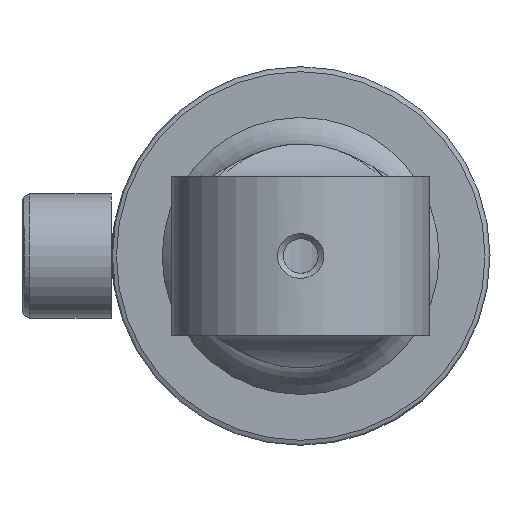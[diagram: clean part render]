
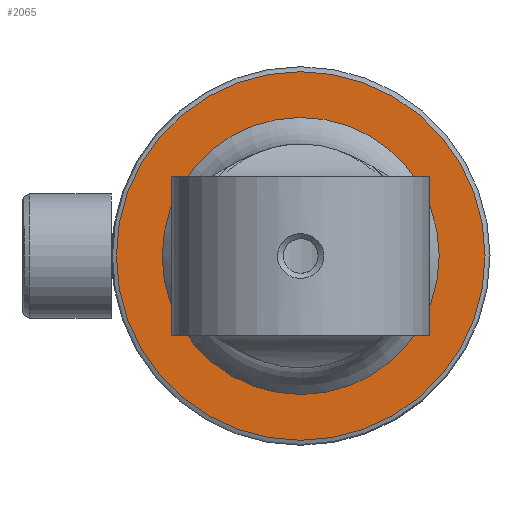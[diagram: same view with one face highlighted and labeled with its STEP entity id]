
A CAD part, left-side view. The second image highlights one B-rep face of the part: STEP entity #2065.
In plain terms, the highlighted planar face has unit normal (-1, 0, 0).
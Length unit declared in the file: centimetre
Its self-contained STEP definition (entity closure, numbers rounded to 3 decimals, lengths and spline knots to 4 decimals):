
#426=PLANE('',#2339);
#598=CIRCLE('',#2337,3.71);
#772=VERTEX_POINT('',#4086);
#987=EDGE_CURVE('',#772,#772,#598,.T.);
#1377=ORIENTED_EDGE('',*,*,#987,.F.);
#1646=EDGE_LOOP('',(#1377));
#1917=FACE_BOUND('',#1646,.T.);
#2065=ADVANCED_FACE('',(#1917),#426,.T.);
#2337=AXIS2_PLACEMENT_3D('',#4085,#2876,#2877);
#2339=AXIS2_PLACEMENT_3D('',#4089,#2880,$);
#2876=DIRECTION('',(1.,0.,0.));
#2877=DIRECTION('',(0.,-3.71,0.));
#2880=DIRECTION('',(-1.,0.,0.));
#4085=CARTESIAN_POINT('',(-2.8204,0.,0.));
#4086=CARTESIAN_POINT('',(-2.8204,3.71,0.));
#4089=CARTESIAN_POINT('',(-2.8204,1.905,0.));
